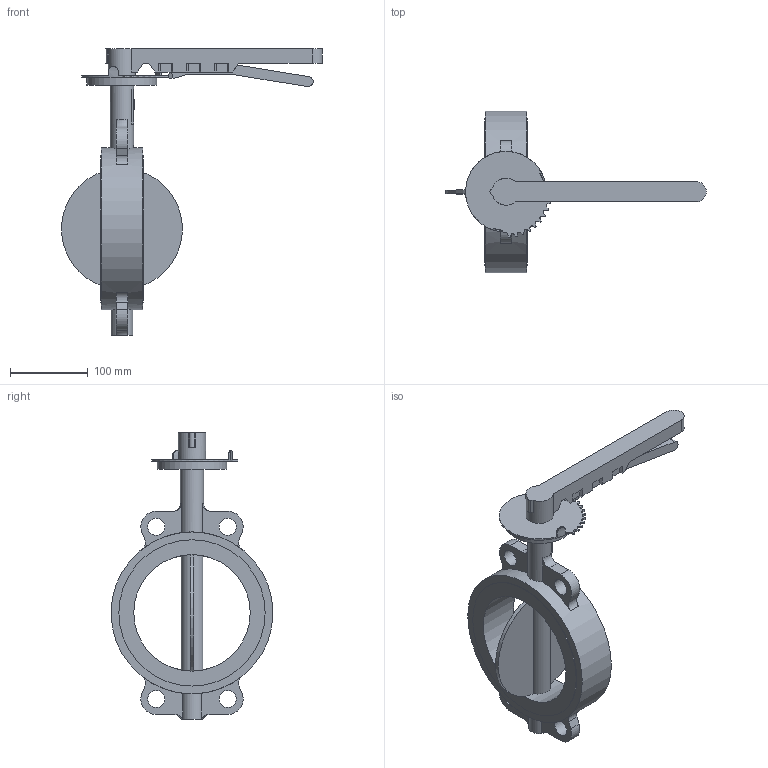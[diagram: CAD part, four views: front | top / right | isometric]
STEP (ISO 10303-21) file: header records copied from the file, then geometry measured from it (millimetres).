
FILE_DESCRIPTION(('STEP AP203'), '1');
FILE_NAME('Çàòâîð 017W.Y_DN150_ðóêîÿòü', '', ('UNSPECIFIED'), ('UNSPECIFIED'), 'ASCON STEP Converter 1.6', 'ASCON Math Kernel', '');
FILE_SCHEMA(('CONFIG_CONTROL_DESIGN'));
Length unit declared in the file: millimetre
Bounding box: 335.56 x 208.4 x 369 mm (x, y, z)
Volume: 1496097.7 mm3; surface area: 218987.7 mm2
Topology: 1 solids, 1 shells, 204 faces, 556 edges, 366 vertices
Faces by surface type: plane 131, cylinder 69, torus 4
Full cylindrical faces by diameter (mm): 10 x4, 22 x4, 30 x1, 35 x1, 90 x1, 150 x1, 188.4 x2, 208.4 x1
Entity records: 9549 total; most frequent: CARTESIAN_POINT 2677, ORIENTED_EDGE 1082, DIRECTION 1067, EDGE_CURVE 541, VERTEX_POINT 366, AXIS2_PLACEMENT_3D 357, LINE 353, VECTOR 353
